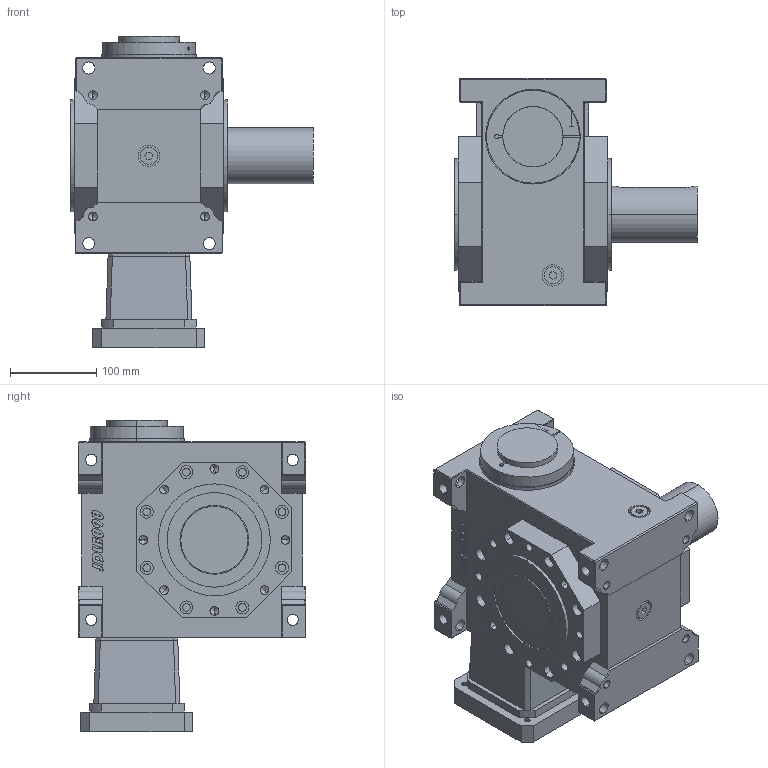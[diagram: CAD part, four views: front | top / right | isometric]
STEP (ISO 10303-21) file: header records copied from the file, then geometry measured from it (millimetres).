
FILE_DESCRIPTION (( 'STEP AP214' ), '1' );
FILE_NAME ('JDLB090-(5~90)-ASR-22-110-145-M8.STEP', '2022-03-27T02:31:35', ( '' ), ( '' ), 'SwSTEP 2.0', 'SolidWorks 2018', '' );
FILE_SCHEMA (( 'AUTOMOTIVE_DESIGN' ));
Length unit declared in the file: millimetre
Products named in the file (6): JDLB090-ASR妗陑粣朴65; 联轴器BD68-73.3-24-22锁紧; JDLB090-ST110输入法兰1; JDLB090-CR眊极; ST130-110-145-M8侜督楊擘諉諳; JDLB090-(5~90)-ASR-22-110-145-M8
Assembly tree (5 placements, depth 2):
  JDLB090-(5~90)-ASR-22-110-145-M8
    JDLB090-CR眊极
    JDLB090-ASR妗陑粣朴65
    JDLB090-ST110输入法兰1
    ST130-110-145-M8侜督楊擘諉諳
    联轴器BD68-73.3-24-22锁紧
Bounding box: 282 x 264 x 362 mm (x, y, z)
Volume: 10237573 mm3; surface area: 691909.6 mm2
Topology: 15 solids, 15 shells, 1099 faces, 2712 edges, 1708 vertices
Faces by surface type: plane 523, cylinder 387, cone 98, bspline 75, torus 16
Entity records: 42278 total; most frequent: CARTESIAN_POINT 11643, DIRECTION 5358, ORIENTED_EDGE 5280, EDGE_CURVE 2640, AXIS2_PLACEMENT_3D 1907, VERTEX_POINT 1708, VECTOR 1544, LINE 1544
